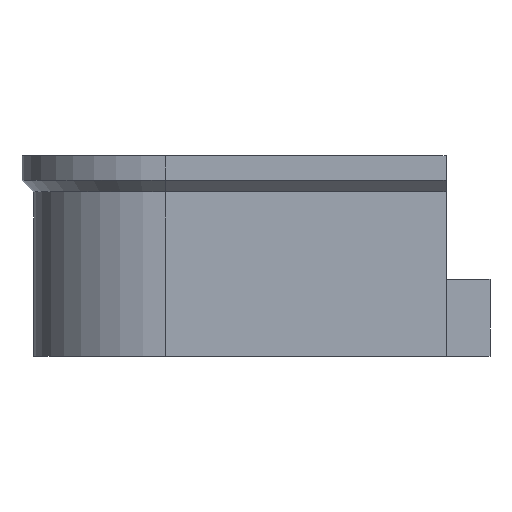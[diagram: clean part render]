
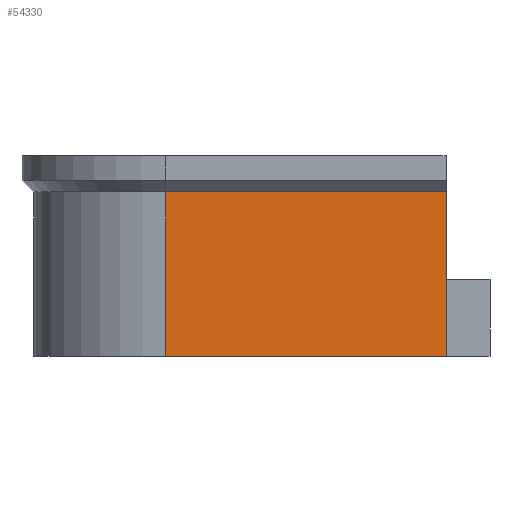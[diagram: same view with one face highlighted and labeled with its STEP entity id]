
A CAD part, left-side view. The second image highlights one B-rep face of the part: STEP entity #54330.
In plain terms, the highlighted planar face has unit normal (-1, 0, 0).
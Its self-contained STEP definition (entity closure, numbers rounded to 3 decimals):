
#32 = PLANE('',#33);
#33 = AXIS2_PLACEMENT_3D('',#34,#35,#36);
#34 = CARTESIAN_POINT('',(-200.,101.,3.));
#35 = DIRECTION('',(-0.,1.,0.));
#36 = DIRECTION('',(0.,0.,1.));
#762 = PLANE('',#763);
#763 = AXIS2_PLACEMENT_3D('',#764,#765,#766);
#764 = CARTESIAN_POINT('',(0.,0.,0.));
#765 = DIRECTION('',(0.,0.,1.));
#766 = DIRECTION('',(1.,0.,-0.));
#859 = VERTEX_POINT('',#860);
#860 = CARTESIAN_POINT('',(-192.,101.,0.));
#881 = EDGE_CURVE('',#882,#859,#884,.T.);
#882 = VERTEX_POINT('',#883);
#883 = CARTESIAN_POINT('',(-192.,101.,29.9));
#884 = SURFACE_CURVE('',#885,(#889,#896),.PCURVE_S1.);
#885 = LINE('',#886,#887);
#886 = CARTESIAN_POINT('',(-192.,101.,29.9));
#887 = VECTOR('',#888,1.);
#888 = DIRECTION('',(0.,0.,-1.));
#889 = PCURVE('',#32,#890);
#890 = DEFINITIONAL_REPRESENTATION('',(#891),#895);
#891 = LINE('',#892,#893);
#892 = CARTESIAN_POINT('',(26.9,8.));
#893 = VECTOR('',#894,1.);
#894 = DIRECTION('',(-1.,0.));
#895 = ( GEOMETRIC_REPRESENTATION_CONTEXT(2) 
PARAMETRIC_REPRESENTATION_CONTEXT() REPRESENTATION_CONTEXT('2D SPACE',''
  ) );
#896 = PCURVE('',#897,#902);
#897 = PLANE('',#898);
#898 = AXIS2_PLACEMENT_3D('',#899,#900,#901);
#899 = CARTESIAN_POINT('',(-192.,152.,4.));
#900 = DIRECTION('',(1.,0.,-0.));
#901 = DIRECTION('',(0.,-1.,0.));
#902 = DEFINITIONAL_REPRESENTATION('',(#903),#907);
#903 = LINE('',#904,#905);
#904 = CARTESIAN_POINT('',(51.,-25.9));
#905 = VECTOR('',#906,1.);
#906 = DIRECTION('',(0.,1.));
#907 = ( GEOMETRIC_REPRESENTATION_CONTEXT(2) 
PARAMETRIC_REPRESENTATION_CONTEXT() REPRESENTATION_CONTEXT('2D SPACE',''
  ) );
#927 = B_SPLINE_SURFACE_WITH_KNOTS('',1,1,(
    (#928,#929)
    ,(#930,#931
    )),.UNSPECIFIED.,.F.,.F.,.F.,(2,2),(2,2),(0.,330.1),(0.,1.),
  .PIECEWISE_BEZIER_KNOTS.);
#928 = CARTESIAN_POINT('',(-192.,152.,29.9));
#929 = CARTESIAN_POINT('',(-194.1,152.,32.));
#930 = CARTESIAN_POINT('',(-192.,-176.,29.9));
#931 = CARTESIAN_POINT('',(-194.1,-178.1,32.));
#945 = VERTEX_POINT('',#946);
#946 = CARTESIAN_POINT('',(-192.,152.,29.9));
#972 = EDGE_CURVE('',#945,#882,#973,.T.);
#973 = SURFACE_CURVE('',#974,(#978,#984),.PCURVE_S1.);
#974 = LINE('',#975,#976);
#975 = CARTESIAN_POINT('',(-192.,152.,29.9));
#976 = VECTOR('',#977,1.);
#977 = DIRECTION('',(0.,-1.,0.));
#978 = PCURVE('',#927,#979);
#979 = DEFINITIONAL_REPRESENTATION('',(#980),#983);
#980 = B_SPLINE_CURVE_WITH_KNOTS('',1,(#981,#982),.UNSPECIFIED.,.F.,.F.,
  (2,2),(0.,328.),.PIECEWISE_BEZIER_KNOTS.);
#981 = CARTESIAN_POINT('',(0.,0.));
#982 = CARTESIAN_POINT('',(330.1,0.));
#983 = ( GEOMETRIC_REPRESENTATION_CONTEXT(2) 
PARAMETRIC_REPRESENTATION_CONTEXT() REPRESENTATION_CONTEXT('2D SPACE',''
  ) );
#984 = PCURVE('',#897,#985);
#985 = DEFINITIONAL_REPRESENTATION('',(#986),#990);
#986 = LINE('',#987,#988);
#987 = CARTESIAN_POINT('',(0.,-25.9));
#988 = VECTOR('',#989,1.);
#989 = DIRECTION('',(1.,0.));
#990 = ( GEOMETRIC_REPRESENTATION_CONTEXT(2) 
PARAMETRIC_REPRESENTATION_CONTEXT() REPRESENTATION_CONTEXT('2D SPACE',''
  ) );
#1033 = CYLINDRICAL_SURFACE('',#1034,24.);
#1034 = AXIS2_PLACEMENT_3D('',#1035,#1036,#1037);
#1035 = CARTESIAN_POINT('',(-168.,152.,4.));
#1036 = DIRECTION('',(-0.,-0.,-1.));
#1037 = DIRECTION('',(1.,0.,-0.));
#54282 = VERTEX_POINT('',#54283);
#54283 = CARTESIAN_POINT('',(-192.,152.,0.));
#54309 = EDGE_CURVE('',#945,#54282,#54310,.T.);
#54310 = SURFACE_CURVE('',#54311,(#54315,#54322),.PCURVE_S1.);
#54311 = LINE('',#54312,#54313);
#54312 = CARTESIAN_POINT('',(-192.,152.,29.9));
#54313 = VECTOR('',#54314,1.);
#54314 = DIRECTION('',(0.,0.,-1.));
#54315 = PCURVE('',#1033,#54316);
#54316 = DEFINITIONAL_REPRESENTATION('',(#54317),#54321);
#54317 = LINE('',#54318,#54319);
#54318 = CARTESIAN_POINT('',(3.142,-25.9));
#54319 = VECTOR('',#54320,1.);
#54320 = DIRECTION('',(0.,1.));
#54321 = ( GEOMETRIC_REPRESENTATION_CONTEXT(2) 
PARAMETRIC_REPRESENTATION_CONTEXT() REPRESENTATION_CONTEXT('2D SPACE',''
  ) );
#54322 = PCURVE('',#897,#54323);
#54323 = DEFINITIONAL_REPRESENTATION('',(#54324),#54328);
#54324 = LINE('',#54325,#54326);
#54325 = CARTESIAN_POINT('',(0.,-25.9));
#54326 = VECTOR('',#54327,1.);
#54327 = DIRECTION('',(0.,1.));
#54328 = ( GEOMETRIC_REPRESENTATION_CONTEXT(2) 
PARAMETRIC_REPRESENTATION_CONTEXT() REPRESENTATION_CONTEXT('2D SPACE',''
  ) );
#54330 = ADVANCED_FACE('',(#54331),#897,.F.);
#54331 = FACE_BOUND('',#54332,.F.);
#54332 = EDGE_LOOP('',(#54333,#54334,#54355,#54356));
#54333 = ORIENTED_EDGE('',*,*,#881,.T.);
#54334 = ORIENTED_EDGE('',*,*,#54335,.F.);
#54335 = EDGE_CURVE('',#54282,#859,#54336,.T.);
#54336 = SURFACE_CURVE('',#54337,(#54341,#54348),.PCURVE_S1.);
#54337 = LINE('',#54338,#54339);
#54338 = CARTESIAN_POINT('',(-192.,76.,0.));
#54339 = VECTOR('',#54340,1.);
#54340 = DIRECTION('',(0.,-1.,0.));
#54341 = PCURVE('',#897,#54342);
#54342 = DEFINITIONAL_REPRESENTATION('',(#54343),#54347);
#54343 = LINE('',#54344,#54345);
#54344 = CARTESIAN_POINT('',(76.,4.));
#54345 = VECTOR('',#54346,1.);
#54346 = DIRECTION('',(1.,0.));
#54347 = ( GEOMETRIC_REPRESENTATION_CONTEXT(2) 
PARAMETRIC_REPRESENTATION_CONTEXT() REPRESENTATION_CONTEXT('2D SPACE',''
  ) );
#54348 = PCURVE('',#762,#54349);
#54349 = DEFINITIONAL_REPRESENTATION('',(#54350),#54354);
#54350 = LINE('',#54351,#54352);
#54351 = CARTESIAN_POINT('',(-192.,76.));
#54352 = VECTOR('',#54353,1.);
#54353 = DIRECTION('',(0.,-1.));
#54354 = ( GEOMETRIC_REPRESENTATION_CONTEXT(2) 
PARAMETRIC_REPRESENTATION_CONTEXT() REPRESENTATION_CONTEXT('2D SPACE',''
  ) );
#54355 = ORIENTED_EDGE('',*,*,#54309,.F.);
#54356 = ORIENTED_EDGE('',*,*,#972,.T.);
